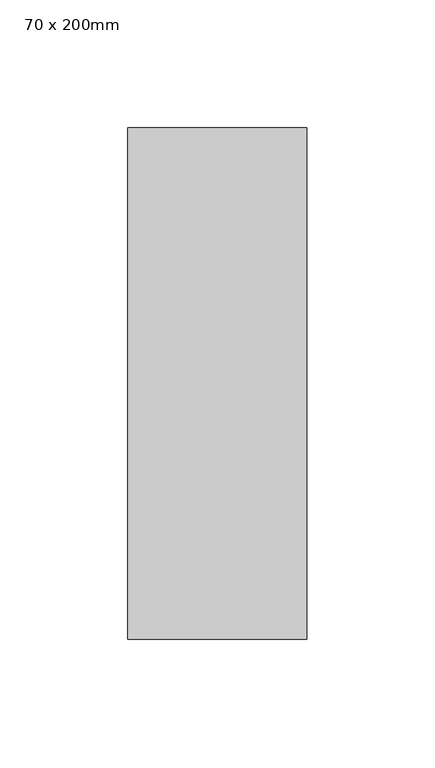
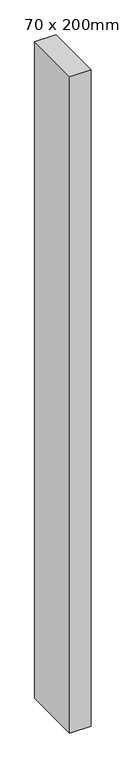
"""IFC4 building model written with IfcOpenShell, lengths in millimetres: member geometry, 矩形竖梃 : 70 x 200mm."""

from ifc_helpers import new_model, si_unit, frame, origin, place, context, project, spatial, polyline, outline, extrude, source, transform, mapped, element, save


def member_70_x_200mm_ae6c61ee(model_context):
    return source(origin(), model_context, "Body", "SweptSolid", [
        extrude(outline(polyline([(0.0, 100.0), (0.0, -100.0), (-70.0, -100.0), (-70.0, 100.0), (0.0, 100.0)])), frame((0.0, 0.0, -2290.0), z_axis=(0.0, 0.0, 1.0), x_axis=(1.0, 0.0, 0.0)), (0.0, 0.0, 1.0), 2290.0),
    ])


if __name__ == "__main__":
    model = new_model("IFC4")
    model_context = context("Model", 3, world=origin())
    ifc_project = project(units=[si_unit("LENGTHUNIT", "METRE", prefix="MILLI")], contexts=[model_context])
    site = spatial("IfcSite", under=ifc_project)
    building = spatial("IfcBuilding", under=site)
    placement = place(None, origin())
    member_70_x_200mm_shape = member_70_x_200mm_ae6c61ee(model_context)
    element("IfcMember", 1, ObjectType="矩形竖梃 : 70 x 200mm", at=placement, inside=building, context=model_context, shape_type="MappedRepresentation", body=[
        mapped(member_70_x_200mm_shape, transform((0.0, 0.0, 0.0), x_axis=(1.0, 0.0, 0.0), y_axis=(0.0, 1.0, 0.0), z_axis=(0.0, 0.0, 1.0))),
    ])
    save(model, "model.ifc")
